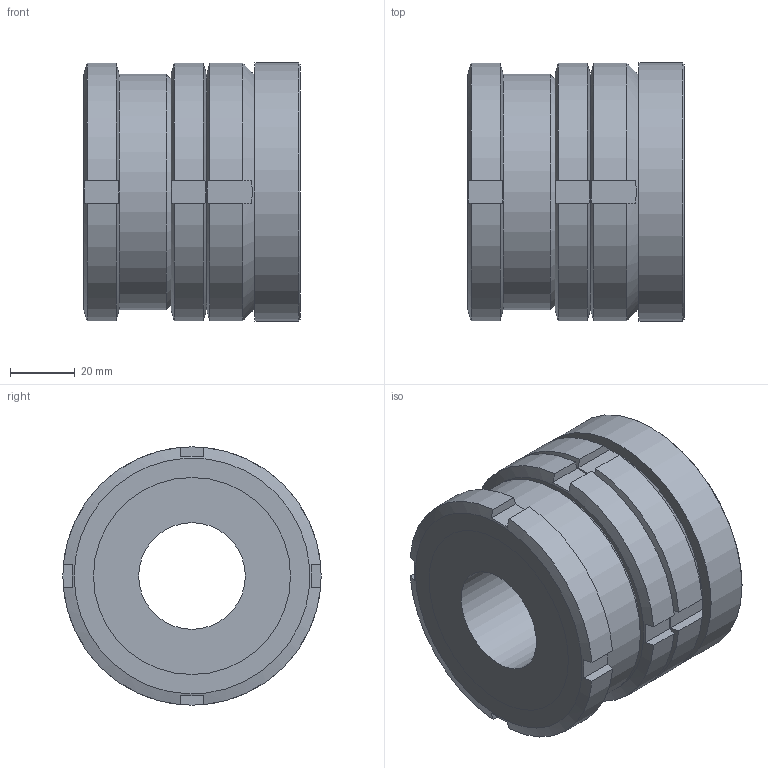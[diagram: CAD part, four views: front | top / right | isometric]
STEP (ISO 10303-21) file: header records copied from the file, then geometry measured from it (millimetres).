
FILE_DESCRIPTION( ( 'STEP AP203' ), '1' );
FILE_NAME( 'C:/Temp/Ganter_Step_05_03_2020/data/3_2/gn350_5/gn350_5_ni/Stainless Steel-Levelling set GN 350.5-80-33-67-NI (0-0).stp', '2020-03-13T05:29:00', ( 'License CC BY-ND 4.0' ), ( 'CADENAS' ), ' ', 'PARTsolutions', ' ' );
FILE_SCHEMA( ( 'CONFIG_CONTROL_DESIGN' ) );
Length unit declared in the file: millimetre
Products named in the file (5): Stainless Steel-Levelling set GN 350.5-80-33-67-NI (0-0); _Levelling set GN 350.5-80-33-67-ST-G; _Levelling set GN 350.5-80-33-67-ST-K; _Levelling set GN 350.5-80-33-67-ST-P(0); _Levelling set GN 350.5-80-33-67-ST-KM
Assembly tree (4 placements, depth 2):
  Stainless Steel-Levelling set GN 350.5-80-33-67-NI (0-0)
    _Levelling set GN 350.5-80-33-67-ST-G
    _Levelling set GN 350.5-80-33-67-ST-K
    _Levelling set GN 350.5-80-33-67-ST-P(0)
    _Levelling set GN 350.5-80-33-67-ST-KM
Bounding box: 67 x 80 x 80 mm (x, y, z)
Volume: 253274.4 mm3; surface area: 63272.2 mm2
Topology: 4 solids, 4 shells, 85 faces, 211 edges, 140 vertices
Faces by surface type: plane 50, cylinder 24, cone 9, sphere 2
Full cylindrical faces by diameter (mm): 33 x1, 48 x1, 53.529 x1, 54.5 x1, 57.835 x1, 58.917 x1, 60 x2, 61 x2, 73 x1, 80 x1
Entity records: 2696 total; most frequent: CARTESIAN_POINT 698, DIRECTION 368, ORIENTED_EDGE 356, EDGE_CURVE 178, AXIS2_PLACEMENT_3D 160, VERTEX_POINT 130, EDGE_LOOP 122, FACE_OUTER_BOUND 99
